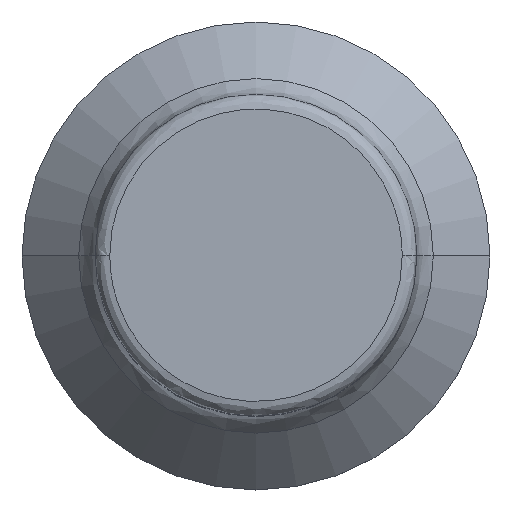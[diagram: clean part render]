
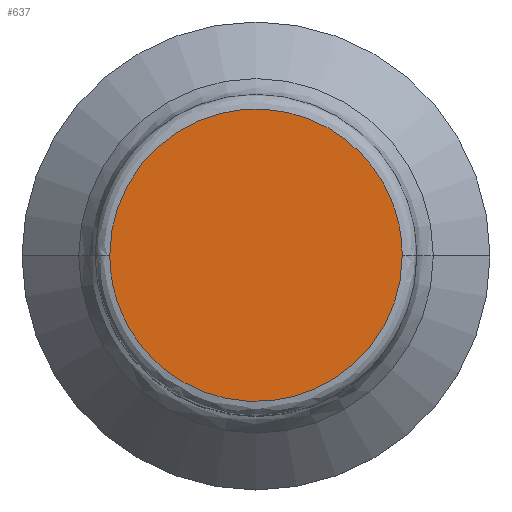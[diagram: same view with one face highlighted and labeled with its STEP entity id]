
A CAD part, top view. The second image highlights one B-rep face of the part: STEP entity #637.
In plain terms, the highlighted planar face has unit normal (0, 0, 1).
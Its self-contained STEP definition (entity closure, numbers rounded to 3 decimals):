
#3 =( BOUNDED_CURVE ( )  B_SPLINE_CURVE ( 3, ( #462, #461, #459, #458 ),
 .UNSPECIFIED., .F., .F. ) 
 B_SPLINE_CURVE_WITH_KNOTS ( ( 4, 4 ),
 ( 0., 1. ),
 .UNSPECIFIED. ) 
 CURVE ( )  GEOMETRIC_REPRESENTATION_ITEM ( )  RATIONAL_B_SPLINE_CURVE ( ( 1., 0.333, 0.333, 1. ) ) 
 REPRESENTATION_ITEM ( '' )  );
#75 =( BOUNDED_CURVE ( )  B_SPLINE_CURVE ( 3, ( #369, #368, #367, #366 ),
 .UNSPECIFIED., .F., .F. ) 
 B_SPLINE_CURVE_WITH_KNOTS ( ( 4, 4 ),
 ( 0., 1. ),
 .UNSPECIFIED. ) 
 CURVE ( )  GEOMETRIC_REPRESENTATION_ITEM ( )  RATIONAL_B_SPLINE_CURVE ( ( 1., 0.333, 0.333, 1. ) ) 
 REPRESENTATION_ITEM ( '' )  );
#134 = EDGE_LOOP ( 'NONE', ( #154, #153 ) ) ;
#153 = ORIENTED_EDGE ( 'NONE', *, *, #617, .F. ) ;
#154 = ORIENTED_EDGE ( 'NONE', *, *, #592, .F. ) ;
#213 = VERTEX_POINT ( 'NONE', #493 ) ;
#219 = VERTEX_POINT ( 'NONE', #487 ) ;
#311 = DIRECTION ( 'NONE',  ( 1., 0., 0. ) ) ;
#312 = DIRECTION ( 'NONE',  ( 0., 0., 1. ) ) ;
#313 = CARTESIAN_POINT ( 'NONE',  ( 0., 0., 0. ) ) ;
#314 = PLANE ( 'NONE',  #653 ) ;
#366 = CARTESIAN_POINT ( 'NONE',  ( -3.81, 0., 0. ) ) ;
#367 = CARTESIAN_POINT ( 'NONE',  ( -3.81, -7.62, 0. ) ) ;
#368 = CARTESIAN_POINT ( 'NONE',  ( 3.81, -7.62, 0. ) ) ;
#369 = CARTESIAN_POINT ( 'NONE',  ( 3.81, 0., 0. ) ) ;
#458 = CARTESIAN_POINT ( 'NONE',  ( 3.81, 0., 0. ) ) ;
#459 = CARTESIAN_POINT ( 'NONE',  ( 3.81, 7.62, 0. ) ) ;
#461 = CARTESIAN_POINT ( 'NONE',  ( -3.81, 7.62, 0. ) ) ;
#462 = CARTESIAN_POINT ( 'NONE',  ( -3.81, 0., 0. ) ) ;
#487 = CARTESIAN_POINT ( 'NONE',  ( -3.81, 0., 0. ) ) ;
#493 = CARTESIAN_POINT ( 'NONE',  ( 3.81, 0., 0. ) ) ;
#576 = FACE_OUTER_BOUND ( 'NONE', #134, .T. ) ;
#592 = EDGE_CURVE ( 'NONE', #219, #213, #3, .T. ) ;
#617 = EDGE_CURVE ( 'NONE', #213, #219, #75, .T. ) ;
#637 = ADVANCED_FACE ( 'NONE', ( #576 ), #314, .T. ) ;
#653 = AXIS2_PLACEMENT_3D ( 'NONE', #313, #312, #311 ) ;
